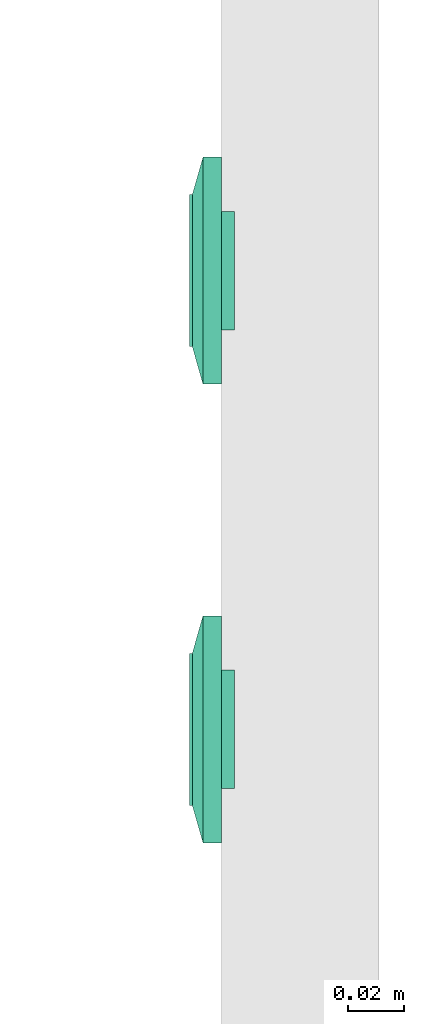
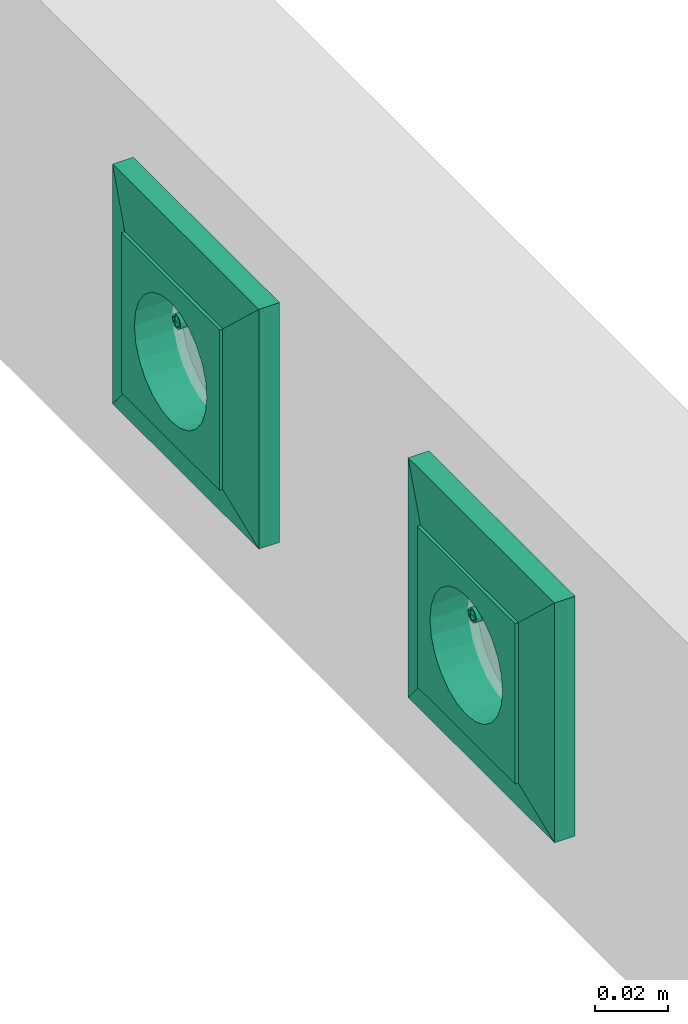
# One storey, part 73 of 166: 2 flow terminals.
"""IFC2X3 building model written with IfcOpenShell, lengths in metres."""

from ifc_helpers import new_model, entity, si_unit, converted_unit, derived_unit, direction, frame, origin, place, context, subcontext, project, spatial, face_set, surface_model, source, transform, mapped, type_object, type_shapes, element, save


model = new_model("IFC2X3")

# Units and contexts
model_context = context("Model", 3, precision=1e-05, world=origin(), true_north=direction((6.12303176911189e-17, 1.0)))
body_context = subcontext(model_context, "Body", "Model", "MODEL_VIEW")
ifc_project = project(units=[si_unit("LENGTHUNIT", "METRE"), si_unit("AREAUNIT", "SQUARE_METRE"), si_unit("VOLUMEUNIT", "CUBIC_METRE"), converted_unit("PLANEANGLEUNIT", "DEGREE", entity("IfcRatioMeasure", 0.0174532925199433), si_unit("PLANEANGLEUNIT", "RADIAN"), dimensions=[0, 0, 0, 0, 0, 0, 0]), si_unit("MASSUNIT", "GRAM", prefix="KILO"), derived_unit("MASSDENSITYUNIT", [(si_unit("MASSUNIT", "GRAM", prefix="KILO"), 1), (si_unit("LENGTHUNIT", "METRE"), -3)]), si_unit("TIMEUNIT", "SECOND"), si_unit("FREQUENCYUNIT", "HERTZ"), si_unit("THERMODYNAMICTEMPERATUREUNIT", "DEGREE_CELSIUS"), derived_unit("THERMALTRANSMITTANCEUNIT", [(si_unit("MASSUNIT", "GRAM", prefix="KILO"), 1), (si_unit("THERMODYNAMICTEMPERATUREUNIT", "KELVIN"), -1), (si_unit("TIMEUNIT", "SECOND"), -3)]), derived_unit("VOLUMETRICFLOWRATEUNIT", [(si_unit("LENGTHUNIT", "METRE"), 3), (si_unit("TIMEUNIT", "SECOND"), -1)]), si_unit("ELECTRICCURRENTUNIT", "AMPERE"), si_unit("ELECTRICVOLTAGEUNIT", "VOLT"), si_unit("POWERUNIT", "WATT"), si_unit("FORCEUNIT", "NEWTON"), si_unit("ILLUMINANCEUNIT", "LUX"), si_unit("LUMINOUSFLUXUNIT", "LUMEN"), si_unit("LUMINOUSINTENSITYUNIT", "CANDELA"), derived_unit("USERDEFINED", [(si_unit("MASSUNIT", "GRAM", prefix="KILO"), -1), (si_unit("LENGTHUNIT", "METRE"), -2), (si_unit("TIMEUNIT", "SECOND"), 3), (si_unit("LUMINOUSFLUXUNIT", "LUMEN"), 1)]), derived_unit("LINEARVELOCITYUNIT", [(si_unit("LENGTHUNIT", "METRE"), 1), (si_unit("TIMEUNIT", "SECOND"), -1)]), si_unit("PRESSUREUNIT", "PASCAL"), derived_unit("USERDEFINED", [(si_unit("LENGTHUNIT", "METRE"), -2), (si_unit("MASSUNIT", "GRAM", prefix="KILO"), 1), (si_unit("TIMEUNIT", "SECOND"), -2)])], contexts=[model_context])

# Site, building, storey
site_placement = place(None, origin())
site = spatial("IfcSite", under=ifc_project, at=site_placement, Name="Default", CompositionType="ELEMENT")
building_placement = place(site_placement, origin())
building = spatial("IfcBuilding", under=site, at=building_placement, CompositionType="ELEMENT")
storey_placement = place(building_placement, frame((0.0, 0.0, 4.27)))
storey = spatial("IfcBuildingStorey", under=building, at=storey_placement, Name="01", CompositionType="ELEMENT", Elevation=4.27)

# Flow terminals
light_fixture_type = type_object("IfcLightFixtureType", Name="PC IP20", PredefinedType="NOTDEFINED")
shared_shape = source(origin(), body_context, "Body", "SurfaceModel", [
    surface_model("IfcFaceBasedSurfaceModel", [(-0.00225000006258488, 0.0127499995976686, 0.00949633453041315), (0.0, 0.0104999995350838, 0.00949633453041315), (0.0, 0.0115376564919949, 0.0101656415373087), (0.0, 0.0139623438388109, 0.0101656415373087), (0.0, 0.0144589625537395, 0.00984531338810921), (0.0, 0.0121178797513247, 0.0102778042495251), (0.0, 0.0133821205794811, 0.0102778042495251), (0.0, 0.0127499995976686, 0.010399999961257), (0.0, 0.0149999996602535, 0.00949633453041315), (0.00225000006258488, 0.0127499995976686, 0.00949633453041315), (0.0, 0.0110410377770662, 0.00984531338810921), (0.0, 0.0127499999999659, 0.00949633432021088), (0.00225000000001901, 0.0127499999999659, 0.00949633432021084), (0.00217333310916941, 0.0121676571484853, 0.00949633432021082), (0.00194855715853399, 0.0116249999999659, 0.00949633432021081), (0.00159099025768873, 0.0111590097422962, 0.00949633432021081), (0.001125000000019, 0.010801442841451, 0.00949633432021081), (0.00058234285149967, 0.0105766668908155, 0.00949633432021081), (0.0, 0.0104999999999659, 0.00949633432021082), (-0.000582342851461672, 0.0105766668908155, 0.00949633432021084), (-0.001124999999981, 0.010801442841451, 0.00949633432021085), (-0.00159099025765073, 0.0111590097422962, 0.00949633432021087), (-0.00194855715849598, 0.011624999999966, 0.00949633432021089), (-0.0021733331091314, 0.0121676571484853, 0.00949633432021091), (-0.00224999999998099, 0.012749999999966, 0.00949633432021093), (-0.00217333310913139, 0.0133323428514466, 0.00949633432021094), (-0.00194855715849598, 0.013874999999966, 0.00949633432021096), (-0.00159099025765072, 0.0143409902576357, 0.00949633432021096), (-0.00112499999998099, 0.0146985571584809, 0.00949633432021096), (-0.00058234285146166, 0.0149233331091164, 0.00949633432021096), (0.0, 0.0149999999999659, 0.00949633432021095), (0.000582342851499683, 0.0149233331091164, 0.00949633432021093), (0.00112500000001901, 0.0146985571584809, 0.00949633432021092), (0.00159099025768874, 0.0143409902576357, 0.00949633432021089), (0.001948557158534, 0.0138749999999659, 0.00949633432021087), (0.00217333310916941, 0.0133323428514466, 0.00949633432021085), (0.00225000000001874, 0.0127499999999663, -0.00360000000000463), (0.00217333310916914, 0.0121676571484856, -0.00360000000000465), (0.00194855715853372, 0.0116249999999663, -0.00360000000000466), (0.00159099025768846, 0.0111590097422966, -0.00360000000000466), (0.00112500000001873, 0.0108014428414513, -0.00360000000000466), (0.000582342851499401, 0.0105766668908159, -0.00360000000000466), (0.0, 0.0104999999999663, -0.00360000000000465), (-0.000582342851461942, 0.0105766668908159, -0.00360000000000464), (-0.00112499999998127, 0.0108014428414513, -0.00360000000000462), (-0.001590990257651, 0.0111590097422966, -0.0036000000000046), (-0.00194855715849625, 0.0116249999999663, -0.00360000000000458), (-0.00217333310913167, 0.0121676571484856, -0.00360000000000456), (-0.00224999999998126, 0.0127499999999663, -0.00360000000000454), (-0.00217333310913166, 0.013332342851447, -0.00360000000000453), (-0.00194855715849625, 0.0138749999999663, -0.00360000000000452), (-0.00159099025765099, 0.014340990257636, -0.00360000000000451), (-0.00112499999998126, 0.0146985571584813, -0.00360000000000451), (-0.000582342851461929, 0.0149233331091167, -0.00360000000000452), (0.0, 0.0149999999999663, -0.00360000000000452), (0.000582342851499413, 0.0149233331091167, -0.00360000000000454), (0.00112500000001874, 0.0146985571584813, -0.00360000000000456), (0.00159099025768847, 0.014340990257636, -0.00360000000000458), (0.00194855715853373, 0.0138749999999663, -0.0036000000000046), (0.00217333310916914, 0.013332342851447, -0.00360000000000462), (0.0270000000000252, 0.026999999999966, 0.0113999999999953), (-0.0269999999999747, 0.026999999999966, 0.0113999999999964), (-0.0269999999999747, -0.0270000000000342, 0.0113999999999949), (0.0270000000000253, -0.0270000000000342, 0.0113999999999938), (-0.0199999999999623, 0.0, 0.0113999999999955), (-0.0193185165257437, -0.00517638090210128, 0.0113999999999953), (-0.0173205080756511, -0.0100000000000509, 0.0113999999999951), (-0.0141421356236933, -0.0141421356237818, 0.011399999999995), (-0.00999999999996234, -0.0173205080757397, 0.0113999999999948), (-0.00517638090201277, -0.0193185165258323, 0.0113999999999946), (0.0, -0.0200000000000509, 0.0113999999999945), (0.00517638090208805, -0.0193185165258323, 0.0113999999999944), (0.0100000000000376, -0.0173205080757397, 0.0113999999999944), (0.0141421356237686, -0.0141421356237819, 0.0113999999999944), (0.0173205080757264, -0.010000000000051, 0.0113999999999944), (0.0193185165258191, -0.00517638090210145, 0.0113999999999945), (0.0200000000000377, 0.0, 0.0113999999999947), (0.0193185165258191, 0.00517638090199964, 0.0113999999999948), (0.0173205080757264, 0.0099999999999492, 0.011399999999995), (0.0141421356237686, 0.0141421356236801, 0.0113999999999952), (0.0100000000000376, 0.0173205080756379, 0.0113999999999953), (0.00517638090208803, 0.0193185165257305, 0.0113999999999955), (0.0, 0.0199999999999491, 0.0113999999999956), (-0.00517638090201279, 0.0193185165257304, 0.0113999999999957), (-0.00999999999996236, 0.0173205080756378, 0.0113999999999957), (-0.0141421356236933, 0.01414213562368, 0.0113999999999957), (-0.0173205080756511, 0.00999999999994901, 0.0113999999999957), (-0.0193185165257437, 0.00517638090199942, 0.0113999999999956), (0.0270000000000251, 0.0269999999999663, 0.00199999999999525), (0.0270000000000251, -0.0270000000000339, 0.00199999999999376), (-0.0269999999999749, -0.0270000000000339, 0.00199999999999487), (-0.0269999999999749, 0.0269999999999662, 0.00199999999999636), (0.0210000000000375, 0.0, 0.00199999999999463), (0.0202844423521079, -0.00543519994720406, 0.00199999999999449), (0.0181865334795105, -0.0105000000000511, 0.0019999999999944), (0.0148492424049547, -0.0148492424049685, 0.00199999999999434), (0.0105000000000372, -0.0181865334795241, 0.00199999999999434), (0.0054351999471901, -0.0202844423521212, 0.00199999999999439), (0.0, -0.0210000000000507, 0.00199999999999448), (-0.00543519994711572, -0.020284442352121, 0.00199999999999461), (-0.0104999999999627, -0.0181865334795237, 0.00199999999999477), (-0.0148492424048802, -0.014849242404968, 0.00199999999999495), (-0.0181865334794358, -0.0105000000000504, 0.00199999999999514), (-0.020284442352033, -0.00543519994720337, 0.00199999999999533), (-0.0209999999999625, 0.0, 0.00199999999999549), (-0.0202844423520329, 0.0054351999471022, 0.00199999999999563), (-0.0181865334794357, 0.0104999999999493, 0.00199999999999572), (-0.01484924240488, 0.0148492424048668, 0.00199999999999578), (-0.0104999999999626, 0.0181865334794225, 0.00199999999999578), (-0.00543519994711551, 0.0202844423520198, 0.00199999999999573), (0.0, 0.0209999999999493, 0.00199999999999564), (0.00543519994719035, 0.0202844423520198, 0.00199999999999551), (0.0105000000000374, 0.0181865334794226, 0.00199999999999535), (0.0148492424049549, 0.0148492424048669, 0.00199999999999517), (0.0181865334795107, 0.0104999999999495, 0.00199999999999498), (0.0202844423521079, 0.00543519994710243, 0.00199999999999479), (0.0200000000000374, 0.0, -0.00360000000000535), (0.0193185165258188, -0.00517638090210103, -0.00360000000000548), (0.0173205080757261, -0.0100000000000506, -0.00360000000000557), (0.0141421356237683, -0.0141421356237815, -0.00360000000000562), (0.0100000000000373, -0.0173205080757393, -0.00360000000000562), (0.00517638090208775, -0.0193185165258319, -0.00360000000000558), (0.0, -0.0200000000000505, -0.00360000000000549), (-0.00517638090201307, -0.0193185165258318, -0.00360000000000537), (-0.00999999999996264, -0.0173205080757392, -0.00360000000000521), (-0.0141421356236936, -0.0141421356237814, -0.00360000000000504), (-0.0173205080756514, -0.0100000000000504, -0.00360000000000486), (-0.019318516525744, -0.00517638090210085, -0.00360000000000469), (-0.0199999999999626, 0.0, -0.00360000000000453), (-0.0193185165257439, 0.00517638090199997, -0.0036000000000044), (-0.0173205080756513, 0.00999999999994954, -0.00360000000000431), (-0.0141421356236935, 0.0141421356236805, -0.00360000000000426), (-0.00999999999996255, 0.0173205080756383, -0.00360000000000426), (-0.00517638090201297, 0.0193185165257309, -0.0036000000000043), (0.0, 0.0199999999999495, -0.00360000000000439), (0.00517638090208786, 0.0193185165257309, -0.00360000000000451), (0.0100000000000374, 0.0173205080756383, -0.00360000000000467), (0.0141421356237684, 0.0141421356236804, -0.00360000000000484), (0.0173205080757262, 0.0099999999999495, -0.00360000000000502), (0.0193185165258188, 0.00517638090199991, -0.00360000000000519), (-0.0123499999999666, 0.0, -0.00360000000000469), (-0.0122562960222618, -0.000711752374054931, -0.00360000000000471), (-0.0119815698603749, -0.00137500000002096, -0.00360000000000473), (-0.0115445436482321, -0.00194454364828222, -0.00360000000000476), (-0.0109749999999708, -0.00238156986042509, -0.00360000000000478), (-0.0103117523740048, -0.00265629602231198, -0.0036000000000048), (-0.00959999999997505, -0.00275000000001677, -0.00360000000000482), (-0.0088882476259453, -0.00265629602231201, -0.00360000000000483), (-0.00822499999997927, -0.00238156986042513, -0.00360000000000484), (-0.00765545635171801, -0.00194454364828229, -0.00360000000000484), (-0.00721843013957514, -0.00137500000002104, -0.00360000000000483), (-0.00694370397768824, -0.000711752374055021, -0.00360000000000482), (-0.00684999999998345, 0.0, -0.0036000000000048), (-0.00694370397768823, 0.000711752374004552, -0.00360000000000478), (-0.00721843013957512, 0.00137499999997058, -0.00360000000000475), (-0.00765545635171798, 0.00194454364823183, -0.00360000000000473), (-0.00822499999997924, 0.00238156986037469, -0.0036000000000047), (-0.00888824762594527, 0.00265629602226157, -0.00360000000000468), (-0.00959999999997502, 0.00274999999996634, -0.00360000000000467), (-0.0103117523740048, 0.00265629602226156, -0.00360000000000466), (-0.0109749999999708, 0.00238156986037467, -0.00360000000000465), (-0.011544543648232, 0.00194454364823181, -0.00360000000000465), (-0.0119815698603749, 0.00137499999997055, -0.00360000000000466), (-0.0122562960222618, 0.000711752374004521, -0.00360000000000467), (0.00685000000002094, 0.0, -0.00360000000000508), (0.0069437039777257, -0.00071175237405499, -0.0036000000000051), (0.00721843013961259, -0.00137500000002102, -0.00360000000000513), (0.00765545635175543, -0.00194454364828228, -0.00360000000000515), (0.00822500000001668, -0.00238156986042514, -0.00360000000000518), (0.00888824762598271, -0.00265629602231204, -0.0036000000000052), (0.00960000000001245, -0.00275000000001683, -0.00360000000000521), (0.0103117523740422, -0.00265629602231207, -0.00360000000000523), (0.0109750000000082, -0.00238156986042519, -0.00360000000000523), (0.0115445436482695, -0.00194454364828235, -0.00360000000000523), (0.0119815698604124, -0.0013750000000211, -0.00360000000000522), (0.0122562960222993, -0.00071175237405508, -0.00360000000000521), (0.012350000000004, 0.0, -0.00360000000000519), (0.0122562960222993, 0.000711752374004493, -0.00360000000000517), (0.0119815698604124, 0.00137499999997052, -0.00360000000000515), (0.0115445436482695, 0.00194454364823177, -0.00360000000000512), (0.0109750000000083, 0.00238156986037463, -0.0036000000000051), (0.0103117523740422, 0.00265629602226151, -0.00360000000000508), (0.00960000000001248, 0.00274999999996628, -0.00360000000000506), (0.00888824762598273, 0.0026562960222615, -0.00360000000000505), (0.0082250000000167, 0.00238156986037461, -0.00360000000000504), (0.00765545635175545, 0.00194454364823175, -0.00360000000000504), (0.0072184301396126, 0.00137499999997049, -0.00360000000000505), (0.00694370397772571, 0.000711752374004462, -0.00360000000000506), (0.0210000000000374, 0.0, -0.00460000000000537), (0.0202844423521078, -0.00543519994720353, -0.00460000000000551), (0.0181865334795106, -0.0105000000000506, -0.0046000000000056), (0.0148492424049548, -0.0148492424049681, -0.00460000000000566), (0.0105000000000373, -0.0181865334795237, -0.00460000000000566), (0.00543519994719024, -0.0202844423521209, -0.00460000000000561), (0.0, -0.0210000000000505, -0.00460000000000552), (-0.00543519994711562, -0.0202844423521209, -0.00460000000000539), (-0.0104999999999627, -0.0181865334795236, -0.00460000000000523), (-0.0148492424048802, -0.0148492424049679, -0.00460000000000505), (-0.0181865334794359, -0.0105000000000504, -0.00460000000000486), (-0.0202844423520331, -0.00543519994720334, -0.00460000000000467), (-0.0209999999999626, 0.0, -0.00460000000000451), (-0.020284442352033, 0.00543519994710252, -0.00460000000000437), (-0.0181865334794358, 0.0104999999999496, -0.00460000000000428), (-0.0148492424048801, 0.0148492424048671, -0.00460000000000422), (-0.0104999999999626, 0.0181865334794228, -0.00460000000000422), (-0.00543519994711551, 0.02028444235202, -0.00460000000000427), (0.0, 0.0209999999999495, -0.00460000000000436), (0.00543519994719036, 0.02028444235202, -0.00460000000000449), (0.0105000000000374, 0.0181865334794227, -0.00460000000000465), (0.0148492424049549, 0.014849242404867, -0.00460000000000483), (0.0181865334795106, 0.0104999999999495, -0.00460000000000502), (0.0202844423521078, 0.00543519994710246, -0.00460000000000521), (-0.00684999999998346, 0.0, -0.0046000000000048), (-0.00694370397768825, 0.000711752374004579, -0.00460000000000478), (-0.00721843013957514, 0.00137499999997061, -0.00460000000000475), (-0.007655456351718, 0.00194454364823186, -0.00460000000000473), (-0.00822499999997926, 0.00238156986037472, -0.0046000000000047), (-0.00888824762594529, 0.0026562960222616, -0.00460000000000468), (-0.00959999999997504, 0.00274999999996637, -0.00460000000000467), (-0.0103117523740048, 0.00265629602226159, -0.00460000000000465), (-0.0109749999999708, 0.0023815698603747, -0.00460000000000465), (-0.0115445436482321, 0.00194454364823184, -0.00460000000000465), (-0.0119815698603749, 0.00137499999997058, -0.00460000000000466), (-0.0122562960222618, 0.000711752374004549, -0.00460000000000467), (-0.0123499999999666, 0.0, -0.00460000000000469), (-0.0122562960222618, -0.000711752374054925, -0.00460000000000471), (-0.0119815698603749, -0.00137500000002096, -0.00460000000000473), (-0.0115445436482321, -0.00194454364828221, -0.00460000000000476), (-0.0109749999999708, -0.00238156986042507, -0.00460000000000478), (-0.0103117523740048, -0.00265629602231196, -0.0046000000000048), (-0.00959999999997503, -0.00275000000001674, -0.00460000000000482), (-0.00888824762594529, -0.00265629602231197, -0.00460000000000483), (-0.00822499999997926, -0.00238156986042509, -0.00460000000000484), (-0.007655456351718, -0.00194454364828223, -0.00460000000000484), (-0.00721843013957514, -0.00137500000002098, -0.00460000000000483), (-0.00694370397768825, -0.000711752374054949, -0.00460000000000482), (0.012350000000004, 0.0, -0.00460000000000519), (0.0122562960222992, 0.000711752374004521, -0.00460000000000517), (0.0119815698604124, 0.00137499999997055, -0.00460000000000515), (0.0115445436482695, 0.0019445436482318, -0.00460000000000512), (0.0109750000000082, 0.00238156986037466, -0.0046000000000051), (0.0103117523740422, 0.00265629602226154, -0.00460000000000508), (0.00960000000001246, 0.00274999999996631, -0.00460000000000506), (0.00888824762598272, 0.00265629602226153, -0.00460000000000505), (0.00822500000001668, 0.00238156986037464, -0.00460000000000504), (0.00765545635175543, 0.00194454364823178, -0.00460000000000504), (0.00721843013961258, 0.00137499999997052, -0.00460000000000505), (0.00694370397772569, 0.00071175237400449, -0.00460000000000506), (0.00685000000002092, 0.0, -0.00460000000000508), (0.00694370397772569, -0.000711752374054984, -0.0046000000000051), (0.00721843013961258, -0.00137500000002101, -0.00460000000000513), (0.00765545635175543, -0.00194454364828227, -0.00460000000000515), (0.00822500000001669, -0.00238156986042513, -0.00460000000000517), (0.00888824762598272, -0.00265629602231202, -0.0046000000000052), (0.00960000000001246, -0.0027500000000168, -0.00460000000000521), (0.0103117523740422, -0.00265629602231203, -0.00460000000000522), (0.0109750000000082, -0.00238156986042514, -0.00460000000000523), (0.0115445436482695, -0.00194454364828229, -0.00460000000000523), (0.0119815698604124, -0.00137500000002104, -0.00460000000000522), (0.0122562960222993, -0.000711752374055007, -0.00460000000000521), (0.040350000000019, 0.0403499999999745, 0.00659999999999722), (0.040350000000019, -0.0403500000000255, 0.00659999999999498), (-0.0403499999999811, -0.0403500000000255, 0.00659999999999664), (-0.0403499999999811, 0.0403499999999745, 0.00659999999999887), (0.027000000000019, 0.0269999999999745, 0.00659999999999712), (-0.0269999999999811, 0.0269999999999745, 0.00659999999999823), (-0.026999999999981, -0.0270000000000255, 0.00659999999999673), (0.027000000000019, -0.0270000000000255, 0.00659999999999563), (0.027000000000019, 0.0269999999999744, 0.0103999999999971), (-0.026999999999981, 0.0269999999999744, 0.0103999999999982), (-0.026999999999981, -0.0270000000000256, 0.0103999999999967), (0.027000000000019, -0.0270000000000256, 0.0103999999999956), (0.040350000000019, 0.0403499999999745, 0.00659999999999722), (0.040350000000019, -0.0403500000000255, 0.00659999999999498), (-0.0403499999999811, -0.0403500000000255, 0.00659999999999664), (-0.0403499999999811, 0.0403499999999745, 0.00659999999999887), (-0.0269999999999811, 0.0269999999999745, 0.00659999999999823), (-0.0269999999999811, -0.0270000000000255, 0.00659999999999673), (0.0270000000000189, -0.0270000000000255, 0.00659999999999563), (0.0270000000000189, 0.0269999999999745, 0.00659999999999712), (0.0403500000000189, 0.0403499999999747, 0.0), (0.0403500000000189, -0.0403500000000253, 0.0), (-0.0403499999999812, -0.0403500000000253, 0.0), (-0.0403499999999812, 0.0403499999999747, 0.0), (0.0270000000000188, 0.0269999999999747, 0.0), (-0.0269999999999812, 0.0269999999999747, 0.0), (-0.0269999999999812, -0.0270000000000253, 0.0), (0.0270000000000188, -0.0270000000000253, 0.0)], [face_set([[[0, 1, 2]], [[3, 4, 2, 5]], [[6, 3, 5, 7]], [[2, 4, 0]], [[4, 8, 0]], [[3, 9, 8]], [[1, 9, 10]], [[2, 3, 6, 7]], [[3, 10, 9]], [[2, 10, 3]], [[11, 1, 0, 8]], [[11, 8, 9, 1]]]), face_set([[[12, 13, 14, 15, 16, 17, 18, 19, 20, 21, 22, 23, 24, 25, 26, 27, 28, 29, 30, 31, 32, 33, 34, 35]], [[36, 37, 38, 39, 40, 41, 42, 43, 44, 45, 46, 47, 48, 49, 50, 51, 52, 53, 54, 55, 56, 57, 58, 59]], [[48, 47, 23, 24]], [[47, 46, 22, 23]], [[45, 44, 20, 21]], [[46, 45, 21, 22]], [[44, 43, 19, 20]], [[18, 19, 43, 42]], [[42, 41, 17, 18]], [[41, 40, 16, 17]], [[39, 38, 14, 15]], [[40, 39, 15, 16]], [[38, 37, 13, 14]], [[12, 13, 37, 36]], [[36, 59, 35, 12]], [[59, 58, 34, 35]], [[57, 56, 32, 33]], [[58, 57, 33, 34]], [[56, 55, 31, 32]], [[30, 31, 55, 54]], [[54, 53, 29, 30]], [[53, 52, 28, 29]], [[51, 50, 26, 27]], [[52, 51, 27, 28]], [[50, 49, 25, 26]], [[24, 25, 49, 48]]]), face_set([[[60, 61, 62, 63], [64, 65, 66, 67, 68, 69, 70, 71, 72, 73, 74, 75, 76, 77, 78, 79, 80, 81, 82, 83, 84, 85, 86, 87]], [[88, 89, 90, 91], [92, 93, 94, 95, 96, 97, 98, 99, 100, 101, 102, 103, 104, 105, 106, 107, 108, 109, 110, 111, 112, 113, 114, 115]], [[61, 60, 88, 91]], [[62, 61, 91, 90]], [[63, 62, 90, 89]], [[60, 63, 89, 88]], [[116, 117, 118, 119, 120, 121, 122, 123, 124, 125, 126, 127, 128, 129, 130, 131, 132, 133, 134, 135, 136, 137, 138, 139], [140, 141, 142, 143, 144, 145, 146, 147, 148, 149, 150, 151, 152, 153, 154, 155, 156, 157, 158, 159, 160, 161, 162, 163], [164, 165, 166, 167, 168, 169, 170, 171, 172, 173, 174, 175, 176, 177, 178, 179, 180, 181, 182, 183, 184, 185, 186, 187]], [[64, 128, 127, 65]], [[65, 127, 126, 66]], [[67, 125, 124, 68]], [[66, 126, 125, 67]], [[68, 124, 123, 69]], [[122, 70, 69, 123]], [[70, 122, 121, 71]], [[71, 121, 120, 72]], [[73, 119, 118, 74]], [[72, 120, 119, 73]], [[74, 118, 117, 75]], [[116, 76, 75, 117]], [[76, 116, 139, 77]], [[77, 139, 138, 78]], [[79, 137, 136, 80]], [[78, 138, 137, 79]], [[80, 136, 135, 81]], [[134, 82, 81, 135]], [[82, 134, 133, 83]], [[83, 133, 132, 84]], [[84, 132, 131, 85]], [[85, 131, 130, 86]], [[130, 129, 87, 86]], [[64, 87, 129, 128]], [[188, 189, 190, 191, 192, 193, 194, 195, 196, 197, 198, 199, 200, 201, 202, 203, 204, 205, 206, 207, 208, 209, 210, 211], [212, 213, 214, 215, 216, 217, 218, 219, 220, 221, 222, 223, 224, 225, 226, 227, 228, 229, 230, 231, 232, 233, 234, 235], [236, 237, 238, 239, 240, 241, 242, 243, 244, 245, 246, 247, 248, 249, 250, 251, 252, 253, 254, 255, 256, 257, 258, 259]], [[200, 199, 103, 104]], [[199, 198, 102, 103]], [[197, 196, 100, 101]], [[198, 197, 101, 102]], [[196, 195, 99, 100]], [[98, 99, 195, 194]], [[194, 193, 97, 98]], [[193, 192, 96, 97]], [[191, 190, 94, 95]], [[192, 191, 95, 96]], [[190, 189, 93, 94]], [[92, 93, 189, 188]], [[188, 211, 115, 92]], [[211, 210, 114, 115]], [[209, 208, 112, 113]], [[210, 209, 113, 114]], [[208, 207, 111, 112]], [[110, 111, 207, 206]], [[206, 205, 109, 110]], [[205, 204, 108, 109]], [[203, 202, 106, 107]], [[204, 203, 107, 108]], [[202, 201, 105, 106]], [[104, 105, 201, 200]], [[141, 225, 226, 142]], [[140, 224, 225, 141]], [[144, 228, 229, 145]], [[143, 227, 228, 144]], [[142, 226, 227, 143]], [[230, 146, 145, 229]], [[149, 233, 232, 148]], [[148, 232, 231, 147]], [[152, 212, 235, 151]], [[151, 235, 234, 150]], [[150, 234, 233, 149]], [[146, 230, 231, 147]], [[154, 214, 213, 153]], [[153, 213, 212, 152]], [[157, 217, 216, 156]], [[156, 216, 215, 155]], [[155, 215, 214, 154]], [[218, 158, 157, 217]], [[160, 220, 221, 161]], [[159, 219, 220, 160]], [[163, 223, 224, 140]], [[162, 222, 223, 163]], [[161, 221, 222, 162]], [[158, 218, 219, 159]], [[166, 250, 249, 165]], [[165, 249, 248, 164]], [[169, 253, 252, 168]], [[168, 252, 251, 167]], [[167, 251, 250, 166]], [[254, 170, 169, 253]], [[172, 256, 257, 173]], [[171, 255, 256, 172]], [[175, 259, 236, 176]], [[174, 258, 259, 175]], [[173, 257, 258, 174]], [[170, 254, 255, 171]], [[177, 237, 238, 178]], [[176, 236, 237, 177]], [[180, 240, 241, 181]], [[179, 239, 240, 180]], [[178, 238, 239, 179]], [[242, 182, 181, 241]], [[185, 245, 244, 184]], [[184, 244, 243, 183]], [[164, 248, 247, 187]], [[187, 247, 246, 186]], [[186, 246, 245, 185]], [[182, 242, 243, 183]]]), face_set([[[260, 261, 262, 263], [264, 265, 266, 267]], [[260, 268, 269, 263]], [[263, 269, 270, 262]], [[262, 270, 271, 261]], [[261, 271, 268, 260]], [[264, 265, 269, 268]], [[265, 266, 270, 269]], [[266, 267, 271, 270]], [[268, 271, 267, 264]]]), face_set([[[272, 273, 274, 275], [276, 277, 278, 279]], [[280, 281, 282, 283], [284, 285, 286, 287]], [[275, 272, 280, 283]], [[274, 275, 283, 282]], [[273, 274, 282, 281]], [[272, 273, 281, 280]], [[284, 285, 276, 279]], [[285, 286, 277, 276]], [[286, 287, 278, 277]], [[279, 278, 287, 284]]])]),
])
type_shapes(light_fixture_type, [shared_shape])
for number, where, z_axis, x_axis in (
    (1, (40.833743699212, -189.918978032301, 4.70800000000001), (-1.0, 0.0, 0.0), (0.0, -1.0, 0.0)),
    (2, (40.833743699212, -190.081978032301, 4.70800000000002), (-1.0, 0.0, 0.0), (0.0, -1.0, 0.0)),
):
    element("IfcFlowTerminal", number, at=place(building_placement, frame(where, z_axis=z_axis, x_axis=x_axis)), inside=storey, type_object=light_fixture_type, Name="INT Prise de courant:PC IP20", ObjectType="INT Prise de courant:PC IP20", context=body_context, shape_type="MappedRepresentation", body=[
        mapped(shared_shape, transform((0.0, 0.0, 0.0), scale=1.0)),
    ])

save(model, "model.ifc")
